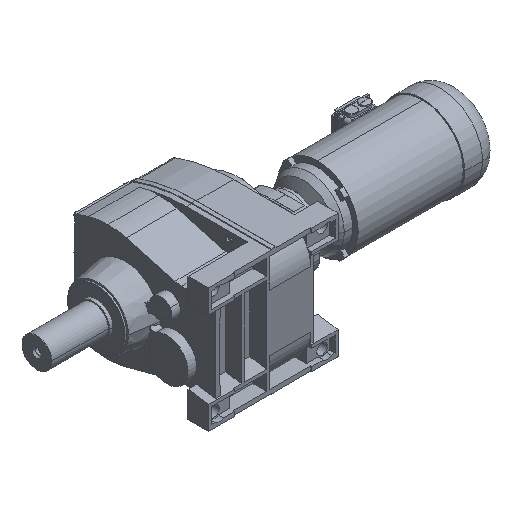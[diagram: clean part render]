
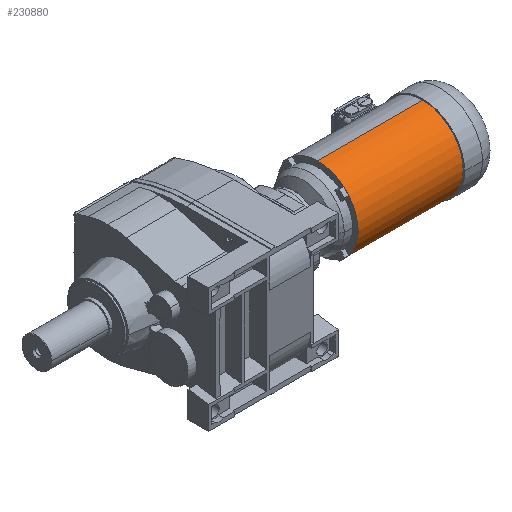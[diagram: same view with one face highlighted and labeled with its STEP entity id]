
A CAD part, isometric view. The second image highlights one B-rep face of the part: STEP entity #230880.
In plain terms, the highlighted cylindrical face has radius 150 mm (diameter 300 mm), a partial arc.
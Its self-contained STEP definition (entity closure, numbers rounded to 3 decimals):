
#228920=CARTESIAN_POINT('',(0.,0.,0.));
#228930=DIRECTION('',(-1.,0.,0.));
#228940=DIRECTION('',(0.,0.,1.));
#228950=AXIS2_PLACEMENT_3D('',#228920,#228930,#228940);
#228960=CIRCLE('',#228950,150.);
#228970=CARTESIAN_POINT('',(0.,0.,150.));
#228980=VERTEX_POINT('',#228970);
#228990=CARTESIAN_POINT('',(0.,0.,-150.));
#229000=VERTEX_POINT('',#228990);
#229030=EDGE_CURVE('',#229000,#228980,#228960,.T.);
#229130=CARTESIAN_POINT('',(388.5,0.,0.));
#229140=DIRECTION('',(-1.,0.,0.));
#229150=DIRECTION('',(0.,0.,1.));
#229160=AXIS2_PLACEMENT_3D('',#229130,#229140,#229150);
#229170=CIRCLE('',#229160,150.);
#229180=CARTESIAN_POINT('',(388.5,0.,150.));
#229190=VERTEX_POINT('',#229180);
#229200=CARTESIAN_POINT('',(388.5,0.,-150.));
#229210=VERTEX_POINT('',#229200);
#229240=EDGE_CURVE('',#229210,#229190,#229170,.T.);
#230670=CARTESIAN_POINT('',(0.,0.,0.));
#230680=DIRECTION('',(-1.,0.,0.));
#230690=DIRECTION('',(0.,0.,1.));
#230700=AXIS2_PLACEMENT_3D('',#230670,#230680,#230690);
#230710=CYLINDRICAL_SURFACE('',#230700,150.);
#230720=CARTESIAN_POINT('',(0.,0.,150.));
#230730=DIRECTION('',(-1.,0.,0.));
#230740=VECTOR('',#230730,1.);
#230750=LINE('',#230720,#230740);
#230760=EDGE_CURVE('',#229190,#228980,#230750,.T.);
#230770=ORIENTED_EDGE('',*,*,#230760,.T.);
#230780=ORIENTED_EDGE('',*,*,#229240,.T.);
#230790=CARTESIAN_POINT('',(0.,0.,-150.));
#230800=DIRECTION('',(-1.,0.,0.));
#230810=VECTOR('',#230800,1.);
#230820=LINE('',#230790,#230810);
#230830=EDGE_CURVE('',#229210,#229000,#230820,.T.);
#230840=ORIENTED_EDGE('',*,*,#230830,.F.);
#230850=ORIENTED_EDGE('',*,*,#229030,.F.);
#230860=EDGE_LOOP('',(#230850,#230840,#230780,#230770));
#230870=FACE_OUTER_BOUND('',#230860,.T.);
#230880=ADVANCED_FACE('',(#230870),#230710,.T.);
